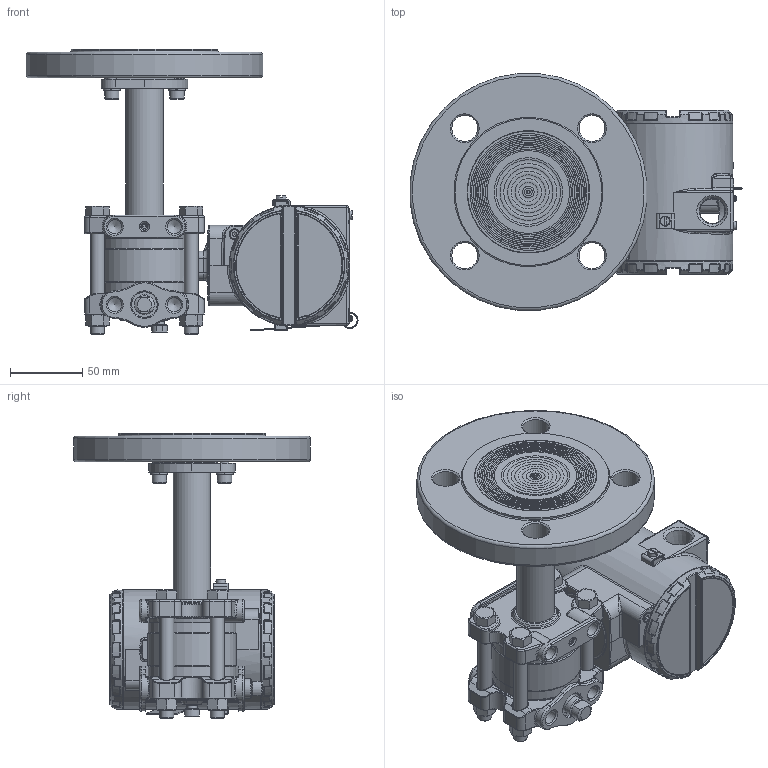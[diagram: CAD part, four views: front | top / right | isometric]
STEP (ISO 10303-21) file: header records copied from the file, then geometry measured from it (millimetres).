
FILE_DESCRIPTION(/* description */ (''),/* implementation_level */ '2;1');
FILE_NAME(/* name */ 'F:\Area\Desenvolvimento_2\Projects\Sensor\projetos\LD30X\montagens 3d - clientes\SELO NIVEL\LD30XL DN50 PN40 RF ref 1-4NPT purga acima.stp',/* time_stamp */ '2023-02-15T11:17:16-03:00',/* author */ ('inventor02'),/* organization */ (''),/* preprocessor_version */ 'ST-DEVELOPER v17',/* originating_system */ 'Autodesk Inventor 2019',/* authorisation */ '');
FILE_SCHEMA (('CONFIG_CONTROL_DESIGN'));
Products named in the file (38): LD30XL DN50 PN40 RF ref 1-4NPT purga acima; 204-0301-L-DN50 PN40 RF purga acima; nivel fx3 com baixa diferencial 1-4NPT purga acima; involucro fx0-3 apos a usinagem final; flange diferencial std purga; 101-C-7484-01 flange selo nivel VR; 201-A-0504-tubo união teste 1; bujao 1-4NPT; Sangria; Porca 3-8 x 16 UNC; Paraf. 3-8 x 16 UNC; adaptação tubo x flanges 1-1-2 a 4pol; 101-B-0161-anel cortado do tubo - teste1; 101-B-0162-flange fixação tubo; ANSI B18.3.1M - M6x1 x 16; DIN 127 - A 6; 101-C-0116-09; carcaça vazia com tampas e plaqueta; carcaça LD inox sem letras; Subconjunto plaqueta 300; Plaqueta transmissor; Parafuso da Plaqueta; Rebite da Plaqueta; 096-A-0169-03; 101-A-0502-01; Chapa aterramento externo; ISO 1207 - M4 x 8; DIN 915 - M6 x 10; ANSI B18.3.1M - M4x0,7 x 8; Subconjunto tampa com visor aluminio; tampa pintada; VIDRO DO VISOR; oring 41x1 vidro tampa; Trava do vidro da tampa com visor; trava do vidro VH256; Subconjunto tampa sem visor-aluminio; tampa cega 300 pintada p0; 00034775-0
Assembly tree (48 placements, depth 4):
  LD30XL DN50 PN40 RF ref 1-4NPT purga acima
    204-0301-L-DN50 PN40 RF purga acima
      nivel fx3 com baixa diferencial 1-4NPT purga acima
        involucro fx0-3 apos a usinagem final
        flange diferencial std purga
        101-C-7484-01 flange selo nivel VR
        201-A-0504-tubo união teste 1
        DIN 915 - M6 x 10
        bujao 1-4NPT
        Sangria
        Porca 3-8 x 16 UNC  x4
        Paraf. 3-8 x 16 UNC  x4
      adaptação tubo x flanges 1-1-2 a 4pol
        101-B-0161-anel cortado do tubo - teste1
        101-B-0162-flange fixação tubo
        ANSI B18.3.1M - M6x1 x 16  x2
        DIN 127 - A 6  x2
      101-C-0116-09
    carcaça vazia com tampas e plaqueta
      carcaça LD inox sem letras
      Subconjunto plaqueta 300
        Plaqueta transmissor
        Parafuso da Plaqueta
        Rebite da Plaqueta
        096-A-0169-03
        101-A-0502-01
      Chapa aterramento externo
      ISO 1207 - M4 x 8
      DIN 915 - M6 x 10
      ANSI B18.3.1M - M4x0,7 x 8  x2
      Subconjunto tampa com visor aluminio
        tampa pintada
        VIDRO DO VISOR
        oring 41x1 vidro tampa
        Trava do vidro da tampa com visor
        trava do vidro VH256
        00034775-0
      Subconjunto tampa sem visor-aluminio
        tampa cega 300 pintada p0
        00034775-0
Bounding box: 230.47 x 164.37 x 198.3 mm (x, y, z)
Volume: 981079.7 mm3; surface area: 310844.9 mm2
Topology: 41 solids, 41 shells, 2678 faces, 6429 edges, 3792 vertices
Faces by surface type: bspline 666, cylinder 648, plane 545, torus 451, cone 242, sphere 126
Full cylindrical faces by diameter (mm): 2 x4, 2.1 x2, 2.459 x5, 2.5 x1, 2.642 x1, 2.7 x1, 2.8 x1, 3 x4, 3.242 x4, 3.5 x5, 3.571 x1, 4 x5, 4.3 x1, 4.4 x1, 4.917 x4, 5 x1, 5.5 x3, 6 x6, 6.647 x1, 7 x7, 7.087 x2, 7.6 x2, 7.798 x4, 8 x1, 8.7 x2, 9.525 x4, 9.728 x6, 10 x2, 10.5 x8, 10.719 x2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
Entity records: 92740 total; most frequent: CARTESIAN_POINT 34342, ORIENTED_EDGE 12038, DIRECTION 11995, EDGE_CURVE 6019, AXIS2_PLACEMENT_3D 5283, VERTEX_POINT 3598, CIRCLE 3121, EDGE_LOOP 2703
